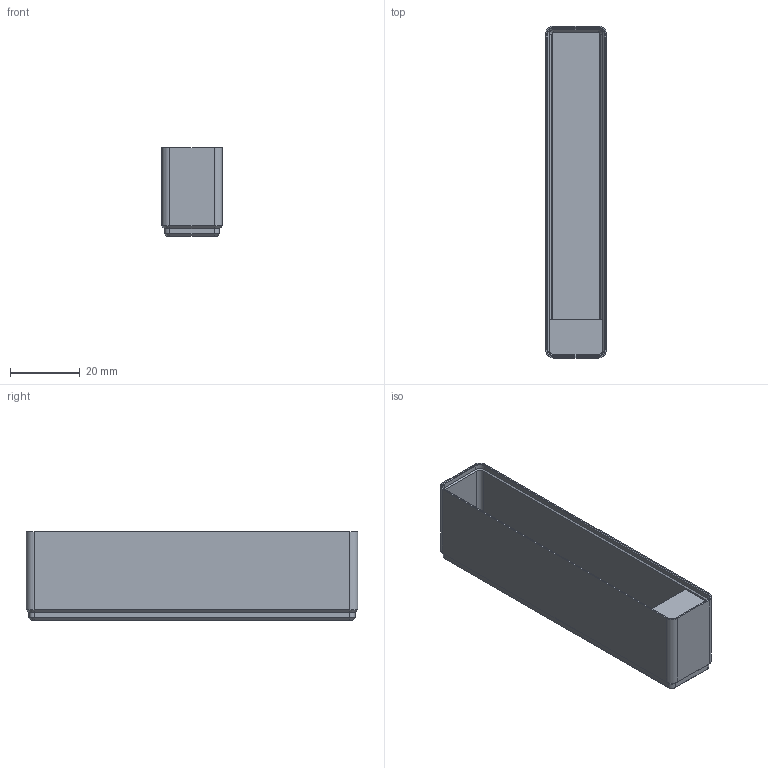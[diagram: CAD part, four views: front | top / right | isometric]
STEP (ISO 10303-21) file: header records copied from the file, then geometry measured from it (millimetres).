
FILE_DESCRIPTION (( 'STEP AP214' ), '1' );
FILE_NAME ('box18x96.STEP', '2025-12-10T22:56:05', ( '' ), ( '' ), 'SwSTEP 2.0', 'SolidWorks 2023', '' );
FILE_SCHEMA (( 'AUTOMOTIVE_DESIGN' ));
Length unit declared in the file: millimetre
Products named in the file (1): box18x96
Bounding box: 17.5 x 95.5 x 25.5 mm (x, y, z)
Volume: 7574.2 mm3; surface area: 13997.7 mm2
Topology: 1 solids, 1 shells, 97 faces, 210 edges, 116 vertices
Faces by surface type: plane 51, cone 24, cylinder 22
Entity records: 2565 total; most frequent: DIRECTION 458, CARTESIAN_POINT 430, ORIENTED_EDGE 420, EDGE_CURVE 210, VECTOR 154, LINE 154, AXIS2_PLACEMENT_3D 152, VERTEX_POINT 116
